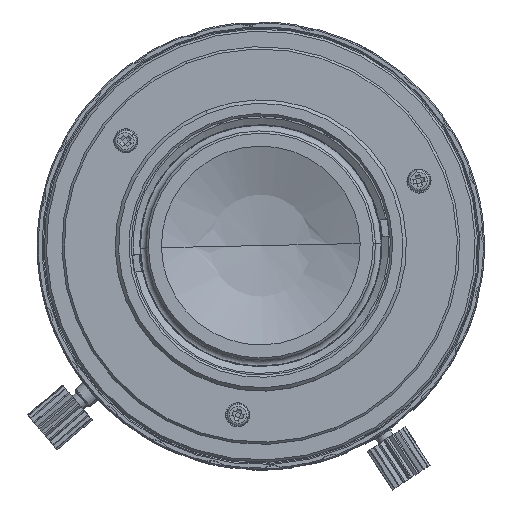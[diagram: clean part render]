
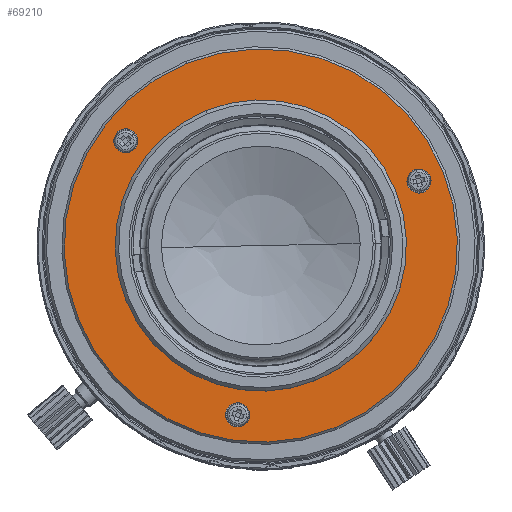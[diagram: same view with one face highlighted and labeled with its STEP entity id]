
A CAD part, top view. The second image highlights one B-rep face of the part: STEP entity #69210.
In plain terms, the highlighted planar face has unit normal (0, 0, 1).
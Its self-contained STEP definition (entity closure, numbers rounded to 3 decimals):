
#68507=CARTESIAN_POINT('',(0.,0.,2.84));
#68508=DIRECTION('',(0.,0.,-1.));
#68509=DIRECTION('',(-1.,0.,0.));
#68510=AXIS2_PLACEMENT_3D('',#68507,#68508,#68509);
#68512=CARTESIAN_POINT('',(0.,0.,2.84));
#68513=DIRECTION('',(0.,0.,-1.));
#68514=DIRECTION('',(1.,0.,0.));
#68515=AXIS2_PLACEMENT_3D('',#68512,#68513,#68514);
#68517=CARTESIAN_POINT('',(0.,0.,2.84));
#68518=DIRECTION('',(0.,0.,1.));
#68519=DIRECTION('',(-1.,0.,0.));
#68520=AXIS2_PLACEMENT_3D('',#68517,#68518,#68519);
#68522=CARTESIAN_POINT('',(0.,0.,2.84));
#68523=DIRECTION('',(0.,0.,1.));
#68524=DIRECTION('',(1.,0.,0.));
#68525=AXIS2_PLACEMENT_3D('',#68522,#68523,#68524);
#68527=CARTESIAN_POINT('',(0.,14.9,2.84));
#68528=DIRECTION('',(0.,0.,1.));
#68529=DIRECTION('',(1.,0.,0.));
#68530=AXIS2_PLACEMENT_3D('',#68527,#68528,#68529);
#68532=CARTESIAN_POINT('',(0.,14.9,2.84));
#68533=DIRECTION('',(0.,0.,1.));
#68534=DIRECTION('',(-1.,0.,0.));
#68535=AXIS2_PLACEMENT_3D('',#68532,#68533,#68534);
#68537=CARTESIAN_POINT('',(-12.904,-7.45,2.84));
#68538=DIRECTION('',(0.,0.,1.));
#68539=DIRECTION('',(-0.5,0.866,0.));
#68540=AXIS2_PLACEMENT_3D('',#68537,#68538,#68539);
#68542=CARTESIAN_POINT('',(-12.904,-7.45,2.84));
#68543=DIRECTION('',(0.,0.,1.));
#68544=DIRECTION('',(0.5,-0.866,0.));
#68545=AXIS2_PLACEMENT_3D('',#68542,#68543,#68544);
#68547=CARTESIAN_POINT('',(12.904,-7.45,2.84));
#68548=DIRECTION('',(0.,0.,1.));
#68549=DIRECTION('',(-0.5,-0.866,0.));
#68550=AXIS2_PLACEMENT_3D('',#68547,#68548,#68549);
#68552=CARTESIAN_POINT('',(12.904,-7.45,2.84));
#68553=DIRECTION('',(0.,0.,1.));
#68554=DIRECTION('',(0.5,0.866,0.));
#68555=AXIS2_PLACEMENT_3D('',#68552,#68553,#68554);
#68959=CARTESIAN_POINT('',(12.2,0.,2.84));
#68960=VERTEX_POINT('',#68959);
#68961=CARTESIAN_POINT('',(-12.2,0.,2.84));
#68962=VERTEX_POINT('',#68961);
#68963=CARTESIAN_POINT('',(-17.15,0.,2.84));
#68964=CARTESIAN_POINT('',(17.15,0.,2.84));
#68965=VERTEX_POINT('',#68963);
#68966=VERTEX_POINT('',#68964);
#68967=CARTESIAN_POINT('',(1.05,14.9,2.84));
#68968=CARTESIAN_POINT('',(-1.05,14.9,2.84));
#68969=VERTEX_POINT('',#68967);
#68970=VERTEX_POINT('',#68968);
#68971=CARTESIAN_POINT('',(-13.429,-6.541,
2.84));
#68972=CARTESIAN_POINT('',(-12.379,-8.359,
2.84));
#68973=VERTEX_POINT('',#68971);
#68974=VERTEX_POINT('',#68972);
#68975=CARTESIAN_POINT('',(12.379,-8.359,
2.84));
#68976=CARTESIAN_POINT('',(13.429,-6.541,
2.84));
#68977=VERTEX_POINT('',#68975);
#68978=VERTEX_POINT('',#68976);
#69177=CARTESIAN_POINT('',(0.,0.,2.84));
#69178=DIRECTION('',(0.,0.,1.));
#69179=DIRECTION('',(-1.,0.,0.));
#69180=AXIS2_PLACEMENT_3D('',#69177,#69178,#69179);
#69181=PLANE('',#69180);
#69183=ORIENTED_EDGE('',*,*,#69182,.T.);
#69185=ORIENTED_EDGE('',*,*,#69184,.T.);
#69186=EDGE_LOOP('',(#69183,#69185));
#69187=FACE_OUTER_BOUND('',#69186,.F.);
#69188=ORIENTED_EDGE('',*,*,#69170,.T.);
#69189=ORIENTED_EDGE('',*,*,#69159,.T.);
#69190=EDGE_LOOP('',(#69188,#69189));
#69191=FACE_BOUND('',#69190,.F.);
#69193=ORIENTED_EDGE('',*,*,#69192,.T.);
#69195=ORIENTED_EDGE('',*,*,#69194,.T.);
#69196=EDGE_LOOP('',(#69193,#69195));
#69197=FACE_BOUND('',#69196,.F.);
#69199=ORIENTED_EDGE('',*,*,#69198,.T.);
#69201=ORIENTED_EDGE('',*,*,#69200,.T.);
#69202=EDGE_LOOP('',(#69199,#69201));
#69203=FACE_BOUND('',#69202,.F.);
#69205=ORIENTED_EDGE('',*,*,#69204,.T.);
#69207=ORIENTED_EDGE('',*,*,#69206,.T.);
#69208=EDGE_LOOP('',(#69205,#69207));
#69209=FACE_BOUND('',#69208,.F.);
#69210=ADVANCED_FACE('',(#69187,#69191,#69197,#69203,#69209),#69181,.T.);
#68511=CIRCLE('',#68510,17.15);
#68516=CIRCLE('',#68515,17.15);
#68521=CIRCLE('',#68520,12.2);
#68526=CIRCLE('',#68525,12.2);
#68531=CIRCLE('',#68530,1.05);
#68536=CIRCLE('',#68535,1.05);
#68541=CIRCLE('',#68540,1.05);
#68546=CIRCLE('',#68545,1.05);
#68551=CIRCLE('',#68550,1.05);
#68556=CIRCLE('',#68555,1.05);
#69159=EDGE_CURVE('',#68960,#68962,#68526,.T.);
#69170=EDGE_CURVE('',#68962,#68960,#68521,.T.);
#69182=EDGE_CURVE('',#68965,#68966,#68511,.T.);
#69184=EDGE_CURVE('',#68966,#68965,#68516,.T.);
#69192=EDGE_CURVE('',#68969,#68970,#68531,.T.);
#69194=EDGE_CURVE('',#68970,#68969,#68536,.T.);
#69198=EDGE_CURVE('',#68973,#68974,#68541,.T.);
#69200=EDGE_CURVE('',#68974,#68973,#68546,.T.);
#69204=EDGE_CURVE('',#68977,#68978,#68551,.T.);
#69206=EDGE_CURVE('',#68978,#68977,#68556,.T.);
